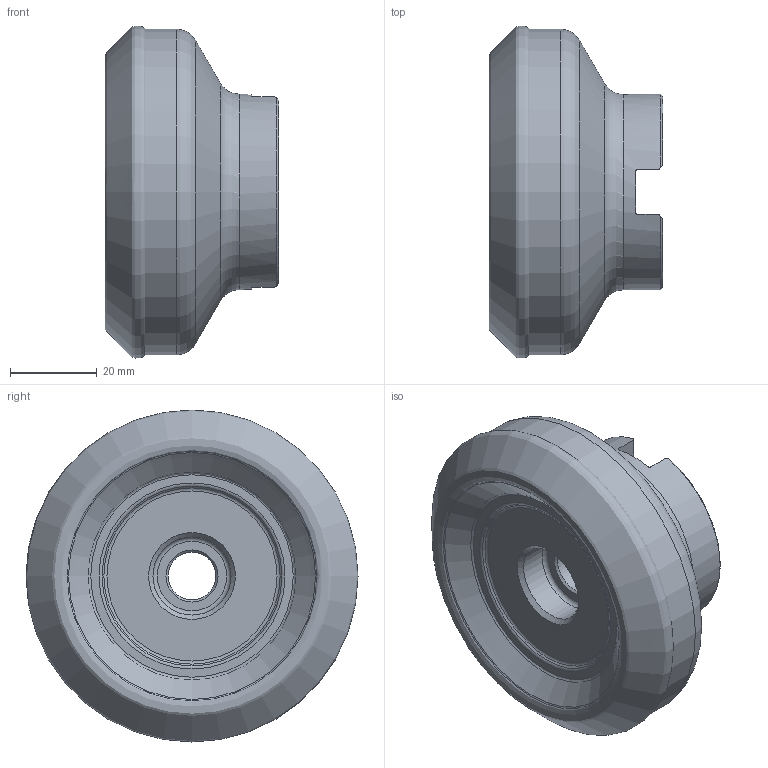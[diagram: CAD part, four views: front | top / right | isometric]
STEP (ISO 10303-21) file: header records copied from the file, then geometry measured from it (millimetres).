
FILE_DESCRIPTION(/* description */ (''),/* implementation_level */ '2;1');
FILE_NAME(/* name */ 'Stp.stp',/* time_stamp */ '2021-07-10T14:21:31+08:00',/* author */ (''),/* organization */ (''),/* preprocessor_version */ 'ST-DEVELOPER v16.7',/* originating_system */ 'SIEMENS PLM Software NX 12.0',/* authorisation */ '');
FILE_SCHEMA (('AUTOMOTIVE_DESIGN { 1 0 10303 214 3 1 1 1 }'));
Length unit declared in the file: millimetre
Products named in the file (2): SEET12T3-CF; FMA01-063-A22-SE12-05_S
Assembly tree (5 placements, depth 2):
  FMA01-063-A22-SE12-05_S
    SEET12T3-CF  x5
Bounding box: 40.01 x 76.46 x 76.46 mm (x, y, z)
Surface area: 60521.2 mm2
Topology: 6 solids, 6 shells, 65 faces, 156 edges, 97 vertices
Faces by surface type: plane 20, torus 15, cone 14, cylinder 11, revolution 5
Full cylindrical faces by diameter (mm): 11 x1, 18 x1, 22 x1, 24 x1, 45 x1, 71.334 x1, 75 x1
Entity records: 2201 total; most frequent: CARTESIAN_POINT 824, DIRECTION 267, ORIENTED_EDGE 204, AXIS2_PLACEMENT_3D 119, EDGE_CURVE 102, EDGE_LOOP 94, VERTEX_POINT 83, FACE_BOUND 75
